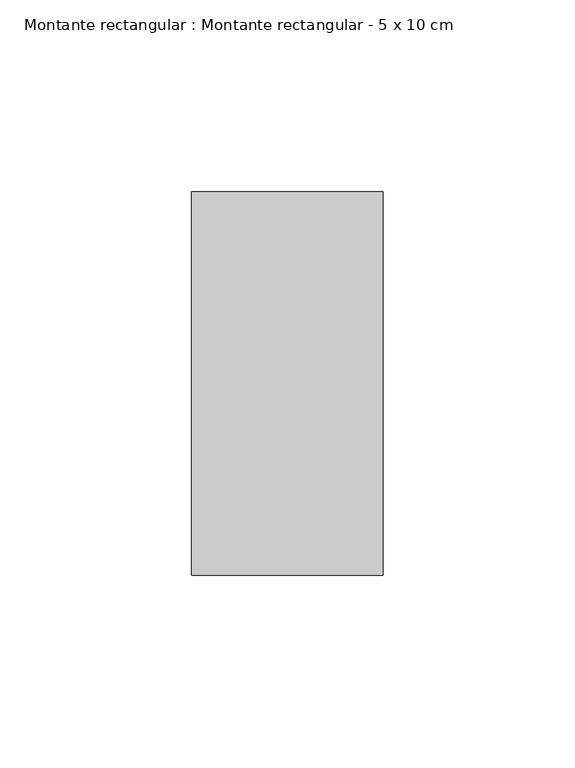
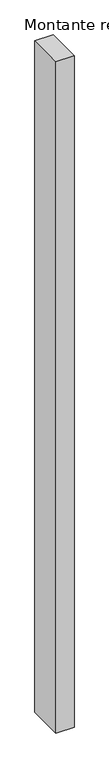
"""IFC4 building model written with IfcOpenShell, lengths in millimetres: member geometry, Montante rectangular : Montante rectangular - 5 x 10 cm."""

from ifc_helpers import new_model, si_unit, frame, origin, place, context, project, spatial, polyline, outline, extrude, source, transform, mapped, element, save


def montante_rectangular_montante_rectangular_5_x_10_cm_58550354(model_context):
    return source(origin(), model_context, "Body", "SweptSolid", [
        extrude(outline(polyline([(-50.0, 50.0), (0.0, 50.0), (0.0, -50.0), (-50.0, -50.0), (-50.0, 50.0)])), frame((0.0, 0.0, -1954.2005143), z_axis=(0.0, 0.0, 1.0), x_axis=(1.0, 0.0, 0.0)), (0.0, 0.0, 1.0), 1954.2005143),
    ])


if __name__ == "__main__":
    model = new_model("IFC4")
    model_context = context("Model", 3, world=origin())
    ifc_project = project(units=[si_unit("LENGTHUNIT", "METRE", prefix="MILLI")], contexts=[model_context])
    site = spatial("IfcSite", under=ifc_project)
    building = spatial("IfcBuilding", under=site)
    placement = place(None, origin())
    montante_rectangular_montante_rectangular_5_x_10_cm_shape = montante_rectangular_montante_rectangular_5_x_10_cm_58550354(model_context)
    element("IfcMember", 1, ObjectType="Montante rectangular : Montante rectangular - 5 x 10 cm", at=placement, inside=building, context=model_context, shape_type="MappedRepresentation", body=[
        mapped(montante_rectangular_montante_rectangular_5_x_10_cm_shape, transform((0.0, 0.0, 0.0), x_axis=(1.0, 0.0, 0.0), y_axis=(0.0, 1.0, 0.0), z_axis=(0.0, 0.0, 1.0))),
    ])
    save(model, "model.ifc")
